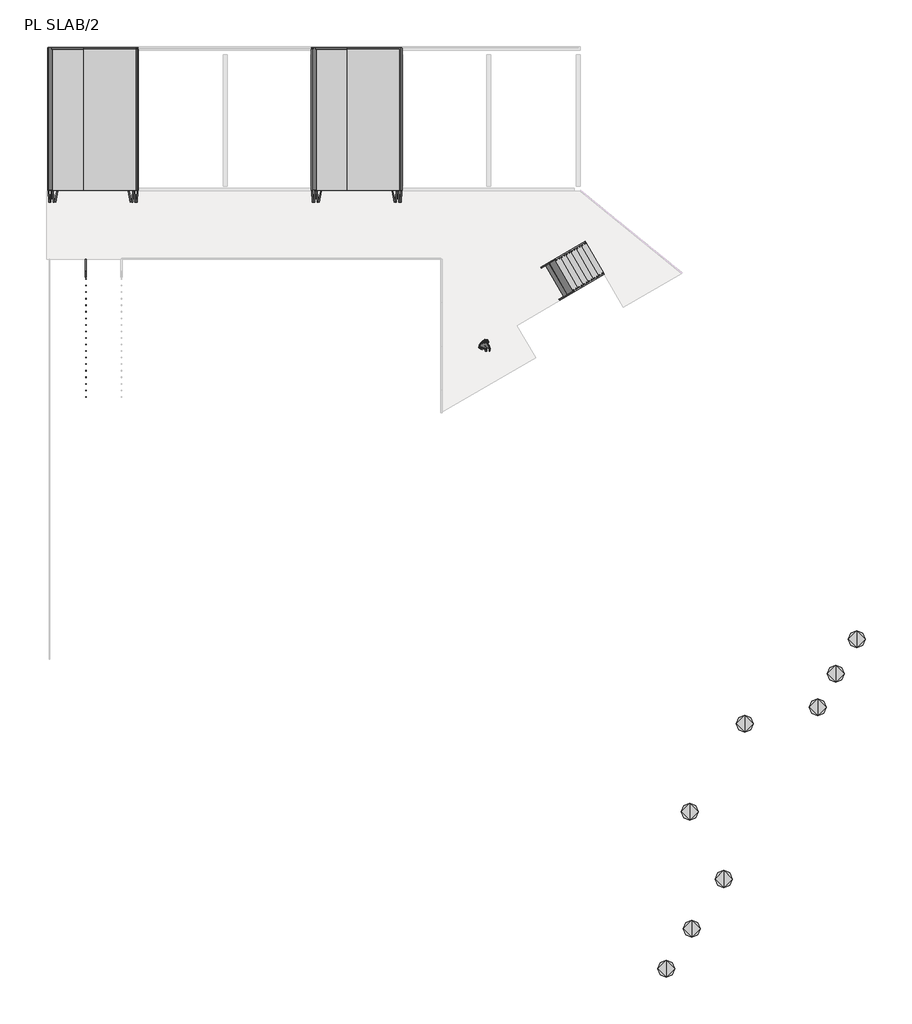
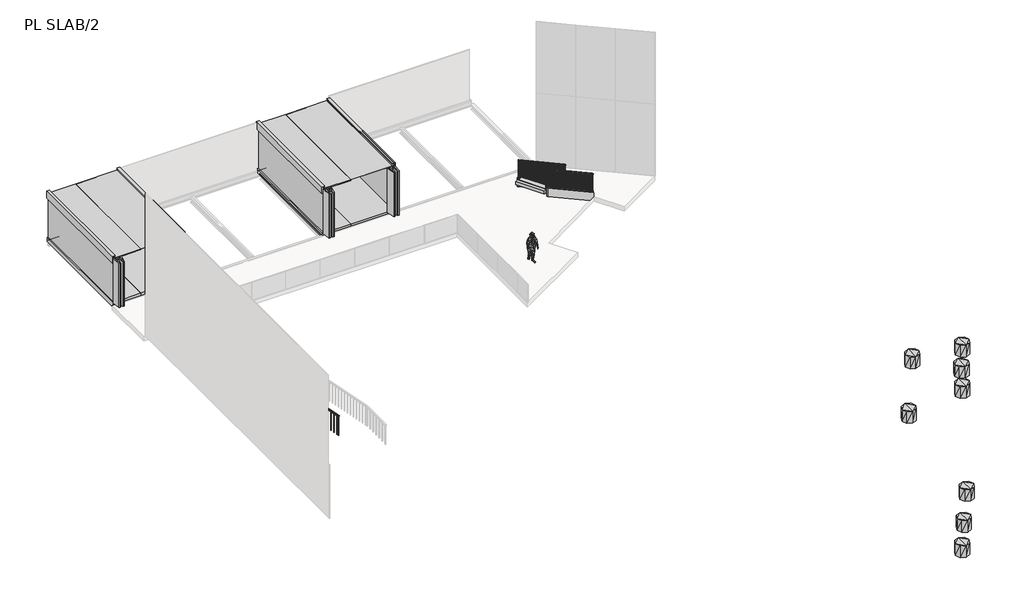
# One storey, part 2 of 2: 9 geographic elements, 3 railings, 2 members, 2 proxies, 1 stair flight.
"""IFC4 building model written with IfcOpenShell, lengths in millimetres."""

from ifc_helpers import new_model, si_unit, frame, origin, place, context, project, spatial, polyline, outline, extrude, transform, mapped, element, save
from components import metal_blocks12_metal_blocks12_015d9ee2, geographic_element_3335acbb, geographic_element_529ebcd5, wood_steps_w_50mm_tread_10mm_nosing_13mm_riser_1b7bef0b

model = new_model("IFC4")

# Units and contexts
model_context = context("Model", 3, world=origin())
ifc_project = project(units=[si_unit("LENGTHUNIT", "METRE", prefix="MILLI")], contexts=[model_context])

# Site, building, storey
site = spatial("IfcSite", under=ifc_project)
building = spatial("IfcBuilding", under=site)
storey = spatial("IfcBuildingStorey", under=building, Name="PL SLAB/2", Elevation=3300.0)

# Proxies
placement = place(None, origin())
metal_blocks12_metal_blocks12_shape = metal_blocks12_metal_blocks12_015d9ee2(model_context)
element("IfcBuildingElementProxy", 1, Name="metal blocks12 : metal blocks12", ObjectType="metal blocks12 : metal blocks12", at=placement, inside=storey, context=model_context, shape_type="MappedRepresentation", body=[
    mapped(metal_blocks12_metal_blocks12_shape, transform((-9631.6874983, 29190.0288254, 3300.0), x_axis=(0.0, 1.0, 0.0), y_axis=(-1.0, 0.0, 0.0), z_axis=(0.0, 0.0, 1.0))),
])
element("IfcBuildingElementProxy", 2, Name="metal blocks12 : metal blocks12", ObjectType="metal blocks12 : metal blocks12", at=placement, inside=storey, context=model_context, shape_type="MappedRepresentation", body=[
    mapped(metal_blocks12_metal_blocks12_shape, transform((1448.4037035, 29190.0288254, 3300.0), x_axis=(0.0, 1.0, 0.0), y_axis=(-1.0, 0.0, 0.0), z_axis=(0.0, 0.0, 1.0))),
])

# Geographic elements
geographic_element_shape = geographic_element_3335acbb(model_context)
element("IfcGeographicElement", 3, ObjectType="Enscape AssetDefinition - Bush 015 English Laurel : Enscape AssetDefinition - Bush 015 English Laurel", at=placement, inside=storey, context=model_context, shape_type="MappedRepresentation", body=[
    mapped(geographic_element_shape, transform((18957.3356294, 7490.0288254, 150.0), x_axis=(1.0, 0.0, 0.0), y_axis=(0.0, 1.0, 0.0), z_axis=(0.0, 0.0, 1.0))),
])
element("IfcGeographicElement", 4, ObjectType="Enscape AssetDefinition - Bush 015 English Laurel : Enscape AssetDefinition - Bush 015 English Laurel", at=placement, inside=storey, context=model_context, shape_type="MappedRepresentation", body=[
    mapped(geographic_element_shape, transform((19720.9924081, 8885.0469404, 150.0), x_axis=(1.0, 0.0, 0.0), y_axis=(0.0, 1.0, 0.0), z_axis=(0.0, 0.0, 1.0))),
])
element("IfcGeographicElement", 5, ObjectType="Enscape AssetDefinition - Bush 015 English Laurel : Enscape AssetDefinition - Bush 015 English Laurel", at=placement, inside=storey, context=model_context, shape_type="MappedRepresentation", body=[
    mapped(geographic_element_shape, transform((20598.3597979, 10341.3675937, 150.0), x_axis=(1.0, 0.0, 0.0), y_axis=(0.0, 1.0, 0.0), z_axis=(0.0, 0.0, 1.0))),
])
element("IfcGeographicElement", 6, ObjectType="Enscape AssetDefinition - Bush 015 English Laurel : Enscape AssetDefinition - Bush 015 English Laurel", at=placement, inside=storey, context=model_context, shape_type="MappedRepresentation", body=[
    mapped(geographic_element_shape, transform((12601.6303112, -3509.9711746, 150.0), x_axis=(1.0, 0.0, 0.0), y_axis=(0.0, 1.0, 0.0), z_axis=(0.0, 0.0, 1.0))),
])
element("IfcGeographicElement", 7, ObjectType="Enscape AssetDefinition - Bush 015 English Laurel : Enscape AssetDefinition - Bush 015 English Laurel", at=placement, inside=storey, context=model_context, shape_type="MappedRepresentation", body=[
    mapped(geographic_element_shape, transform((13664.9991538, -1816.0720909, 150.0), x_axis=(1.0, 0.0, 0.0), y_axis=(0.0, 1.0, 0.0), z_axis=(0.0, 0.0, 1.0))),
])
element("IfcGeographicElement", 8, ObjectType="Enscape AssetDefinition - Bush 015 English Laurel : Enscape AssetDefinition - Bush 015 English Laurel", at=placement, inside=storey, context=model_context, shape_type="MappedRepresentation", body=[
    mapped(geographic_element_shape, transform((15022.8674679, 265.5548037, 150.0), x_axis=(1.0, 0.0, 0.0), y_axis=(0.0, 1.0, 0.0), z_axis=(0.0, 0.0, 1.0))),
])
element("IfcGeographicElement", 9, ObjectType="Enscape AssetDefinition - Bush 015 English Laurel : Enscape AssetDefinition - Bush 015 English Laurel", at=placement, inside=storey, context=model_context, shape_type="MappedRepresentation", body=[
    mapped(geographic_element_shape, transform((13594.2292254, 3090.0288254, 3300.0), x_axis=(1.0, 0.0, 0.0), y_axis=(0.0, 1.0, 0.0), z_axis=(0.0, 0.0, 1.0))),
])
element("IfcGeographicElement", 10, ObjectType="Enscape AssetDefinition - Bush 015 English Laurel : Enscape AssetDefinition - Bush 015 English Laurel", at=placement, inside=storey, context=model_context, shape_type="MappedRepresentation", body=[
    mapped(geographic_element_shape, transform((15899.8595018, 6785.7328214, 3300.0), x_axis=(1.0, 0.0, 0.0), y_axis=(0.0, 1.0, 0.0), z_axis=(0.0, 0.0, 1.0))),
])
geographic_element_2_shape = geographic_element_529ebcd5(model_context)
element("IfcGeographicElement", 11, ObjectType="Enscape AssetDefinition - Adrian 001 Walking : Enscape AssetDefinition - Adrian 001 Walking", at=placement, inside=storey, context=model_context, shape_type="MappedRepresentation", body=[
    mapped(geographic_element_2_shape, transform((4951.4862691, 22643.5885447, 3300.0), x_axis=(1.0, 0.0, 0.0), y_axis=(0.0, 1.0, 0.0), z_axis=(0.0, 0.0, 1.0))),
])

# Members
element("IfcMember", 12, ObjectType="Stringer-50mm_Width", at=placement, inside=storey, context=model_context, shape_type="SweptSolid", body=[
    extrude(outline(polyline([(-129.2778206, -193.9167308), (0.0, 0.0), (5107.8643069, 1e-07), (4841.1976402, -399.9999999), (179.8470831, -399.9999999), (-129.2778206, -193.9167308)])), frame((9998.3283606, 25664.1178276, 3533.0589054), z_axis=(-0.4999999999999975, 0.8660254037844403, 0.0), x_axis=(-0.7205766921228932, -0.41602514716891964, 0.5547001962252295)), (0.0, 0.0, 1.0), 50.0),
])
element("IfcMember", 13, ObjectType="Stringer-50mm_Width", at=placement, inside=storey, context=model_context, shape_type="SweptSolid", body=[
    extrude(outline(polyline([(-129.2778206, -193.9167308), (0.0, 0.0), (5107.8643069, 1e-07), (4841.1976402, -399.9999999), (179.8470831, -400.0), (-129.2778206, -193.9167308)])), frame((9223.3283606, 27006.4572035, 3533.0589054), z_axis=(-0.49999999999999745, 0.8660254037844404, 0.0), x_axis=(-0.7205766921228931, -0.4160251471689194, 0.5547001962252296)), (0.0, 0.0, 1.0), 50.0),
])

# Railings
element("IfcRailing", 14, ObjectType="1100mm", at=placement, inside=storey, context=model_context, shape_type="SweptSolid", body=[
    extrude(outline(polyline([(-33.3333334, -50.0), (0.0, 0.0), (5107.8643068, 0.0), (5074.5309735, -50.0), (-33.3333334, -50.0)])), frame((9248.5283606, 26962.8095231, 4566.6666667), z_axis=(-0.4999999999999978, 0.86602540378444, 0.0), x_axis=(-0.7205766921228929, -0.4160251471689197, 0.5547001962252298)), (0.0, 0.0, 1.0), 50.0),
    extrude(outline(polyline([(1264.9074788, -25.0), (108.3333334, -25.0), (91.6666667, 0.0), (1264.9074788, 0.0), (1264.9074788, -25.0)])), frame((5604.9716647, 24873.6348407, 7398.2408121), z_axis=(-0.49999999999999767, 0.86602540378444, 0.0), x_axis=(0.0, 0.0, -1.0)), (0.0, 0.0, 1.0), 25.0),
    extrude(outline(polyline([(1181.5741454, -25.0), (108.3333333, -25.0), (91.6666666, 0.0), (1181.5741454, 0.0), (1181.5741454, -25.0)])), frame((5713.2248402, 24936.1348407, 7314.9074787), z_axis=(-0.49999999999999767, 0.86602540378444, 0.0), x_axis=(0.0, 0.0, -1.0)), (0.0, 0.0, 1.0), 25.0),
    extrude(outline(polyline([(1264.9074787, -25.0), (108.3333333, -25.0), (91.6666667, 0.0), (1264.9074787, 0.0), (1264.9074787, -25.0)])), frame((5821.4780157, 24998.6348407, 7231.5741454), z_axis=(-0.49999999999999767, 0.86602540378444, 0.0), x_axis=(0.0, 0.0, -1.0)), (0.0, 0.0, 1.0), 25.0),
    extrude(outline(polyline([(1181.5741454, -25.0), (108.3333334, -25.0), (91.6666667, 0.0), (1181.5741454, 0.0), (1181.5741454, -25.0)])), frame((5929.7311912, 25061.1348407, 7148.2408121), z_axis=(-0.49999999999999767, 0.86602540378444, 0.0), x_axis=(0.0, 0.0, -1.0)), (0.0, 0.0, 1.0), 25.0),
    extrude(outline(polyline([(1264.9074787, -25.0), (108.3333333, -25.0), (91.6666666, 0.0), (1264.9074787, 0.0), (1264.9074787, -25.0)])), frame((6037.9843666, 25123.6348407, 7064.9074787), z_axis=(-0.49999999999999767, 0.86602540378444, 0.0), x_axis=(0.0, 0.0, -1.0)), (0.0, 0.0, 1.0), 25.0),
    extrude(outline(polyline([(1181.5741454, -25.0), (108.3333333, -25.0), (91.6666667, 0.0), (1181.5741454, 0.0), (1181.5741454, -25.0)])), frame((6146.2375421, 25186.1348407, 6981.5741454), z_axis=(-0.49999999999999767, 0.86602540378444, 0.0), x_axis=(0.0, 0.0, -1.0)), (0.0, 0.0, 1.0), 25.0),
    extrude(outline(polyline([(1264.9074788, -25.0), (108.3333334, -25.0), (91.6666667, 0.0), (1264.9074788, 0.0), (1264.9074788, -25.0)])), frame((6254.4907176, 25248.6348407, 6898.2408121), z_axis=(-0.49999999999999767, 0.86602540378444, 0.0), x_axis=(0.0, 0.0, -1.0)), (0.0, 0.0, 1.0), 25.0),
    extrude(outline(polyline([(1181.5741454, -25.0), (108.3333333, -25.0), (91.6666666, 0.0), (1181.5741454, 0.0), (1181.5741454, -25.0)])), frame((6362.7438931, 25311.1348407, 6814.9074787), z_axis=(-0.49999999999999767, 0.86602540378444, 0.0), x_axis=(0.0, 0.0, -1.0)), (0.0, 0.0, 1.0), 25.0),
    extrude(outline(polyline([(1264.9074787, -25.0), (108.3333333, -25.0), (91.6666667, 0.0), (1264.9074787, 0.0), (1264.9074787, -25.0)])), frame((6470.9970685, 25373.6348407, 6731.5741454), z_axis=(-0.49999999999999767, 0.86602540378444, 0.0), x_axis=(0.0, 0.0, -1.0)), (0.0, 0.0, 1.0), 25.0),
    extrude(outline(polyline([(1181.5741454, -25.0), (108.3333334, -25.0), (91.6666667, 0.0), (1181.5741454, 0.0), (1181.5741454, -25.0)])), frame((6579.250244, 25436.1348407, 6648.2408121), z_axis=(-0.49999999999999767, 0.86602540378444, 0.0), x_axis=(0.0, 0.0, -1.0)), (0.0, 0.0, 1.0), 25.0),
    extrude(outline(polyline([(1264.9074787, -25.0), (108.3333333, -25.0), (91.6666666, 0.0), (1264.9074787, 0.0), (1264.9074787, -25.0)])), frame((6687.5034195, 25498.6348407, 6564.9074787), z_axis=(-0.49999999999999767, 0.86602540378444, 0.0), x_axis=(0.0, 0.0, -1.0)), (0.0, 0.0, 1.0), 25.0),
    extrude(outline(polyline([(1181.5741454, -24.9999999), (108.3333333, -24.9999999), (91.6666667, 0.0), (1181.5741454, 0.0), (1181.5741454, -24.9999999)])), frame((6795.756595, 25561.1348407, 6481.5741454), z_axis=(-0.49999999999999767, 0.86602540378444, 0.0), x_axis=(0.0, 0.0, -1.0)), (0.0, 0.0, 1.0), 25.0),
    extrude(outline(polyline([(1264.9074788, -25.0), (108.3333334, -25.0), (91.6666667, 0.0), (1264.9074788, 0.0), (1264.9074788, -25.0)])), frame((6904.0097704, 25623.6348407, 6398.2408121), z_axis=(-0.49999999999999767, 0.86602540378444, 0.0), x_axis=(0.0, 0.0, -1.0)), (0.0, 0.0, 1.0), 25.0),
    extrude(outline(polyline([(1181.5741454, -25.0), (108.3333333, -25.0), (91.6666666, 0.0), (1181.5741454, 0.0), (1181.5741454, -25.0)])), frame((7012.2629459, 25686.1348407, 6314.9074787), z_axis=(-0.49999999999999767, 0.86602540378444, 0.0), x_axis=(0.0, 0.0, -1.0)), (0.0, 0.0, 1.0), 25.0),
    extrude(outline(polyline([(1264.9074787, -25.0), (108.3333333, -25.0), (91.6666667, 0.0), (1264.9074787, 0.0), (1264.9074787, -25.0)])), frame((7120.5161214, 25748.6348407, 6231.5741454), z_axis=(-0.49999999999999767, 0.86602540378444, 0.0), x_axis=(0.0, 0.0, -1.0)), (0.0, 0.0, 1.0), 25.0),
    extrude(outline(polyline([(1181.5741454, -25.0), (108.3333334, -25.0), (91.6666667, 0.0), (1181.5741454, 0.0), (1181.5741454, -25.0)])), frame((7228.7692968, 25811.1348407, 6148.2408121), z_axis=(-0.49999999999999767, 0.86602540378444, 0.0), x_axis=(0.0, 0.0, -1.0)), (0.0, 0.0, 1.0), 25.0),
    extrude(outline(polyline([(1264.9074787, -25.0), (108.3333333, -25.0), (91.6666666, 0.0), (1264.9074787, 0.0), (1264.9074787, -25.0)])), frame((7337.0224723, 25873.6348407, 6064.9074787), z_axis=(-0.49999999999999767, 0.86602540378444, 0.0), x_axis=(0.0, 0.0, -1.0)), (0.0, 0.0, 1.0), 25.0),
    extrude(outline(polyline([(1181.5741454, -25.0), (108.3333333, -25.0), (91.6666667, 0.0), (1181.5741454, 0.0), (1181.5741454, -25.0)])), frame((7445.2756478, 25936.1348407, 5981.5741454), z_axis=(-0.49999999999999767, 0.86602540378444, 0.0), x_axis=(0.0, 0.0, -1.0)), (0.0, 0.0, 1.0), 25.0),
    extrude(outline(polyline([(1264.9074788, -25.0), (108.3333334, -25.0), (91.6666667, 0.0), (1264.9074788, 0.0), (1264.9074788, -25.0)])), frame((7553.5288233, 25998.6348407, 5898.2408121), z_axis=(-0.49999999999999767, 0.86602540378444, 0.0), x_axis=(0.0, 0.0, -1.0)), (0.0, 0.0, 1.0), 25.0),
    extrude(outline(polyline([(1181.5741454, -25.0), (108.3333333, -25.0), (91.6666666, 0.0), (1181.5741454, 0.0), (1181.5741454, -25.0)])), frame((7661.7819987, 26061.1348407, 5814.9074787), z_axis=(-0.49999999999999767, 0.86602540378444, 0.0), x_axis=(0.0, 0.0, -1.0)), (0.0, 0.0, 1.0), 25.0),
    extrude(outline(polyline([(1264.9074787, -25.0), (108.3333333, -25.0), (91.6666667, 0.0), (1264.9074787, 0.0), (1264.9074787, -25.0)])), frame((7770.0351742, 26123.6348407, 5731.5741454), z_axis=(-0.49999999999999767, 0.86602540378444, 0.0), x_axis=(0.0, 0.0, -1.0)), (0.0, 0.0, 1.0), 25.0),
    extrude(outline(polyline([(1181.5741454, -25.0), (108.3333334, -25.0), (91.6666667, 0.0), (1181.5741454, 0.0), (1181.5741454, -25.0)])), frame((7878.2883497, 26186.1348407, 5648.2408121), z_axis=(-0.49999999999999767, 0.86602540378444, 0.0), x_axis=(0.0, 0.0, -1.0)), (0.0, 0.0, 1.0), 25.0),
    extrude(outline(polyline([(1264.9074787, -24.9999999), (108.3333333, -24.9999999), (91.6666666, 0.0), (1264.9074787, 0.0), (1264.9074787, -24.9999999)])), frame((7986.5415252, 26248.6348407, 5564.9074787), z_axis=(-0.49999999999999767, 0.86602540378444, 0.0), x_axis=(0.0, 0.0, -1.0)), (0.0, 0.0, 1.0), 25.0),
    extrude(outline(polyline([(1181.5741454, -25.0), (108.3333333, -25.0), (91.6666667, 0.0), (1181.5741454, 0.0), (1181.5741454, -25.0)])), frame((8094.7947006, 26311.1348407, 5481.5741454), z_axis=(-0.49999999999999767, 0.86602540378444, 0.0), x_axis=(0.0, 0.0, -1.0)), (0.0, 0.0, 1.0), 25.0),
    extrude(outline(polyline([(1264.9074788, -25.0), (108.3333334, -25.0), (91.6666667, 0.0), (1264.9074788, 0.0), (1264.9074788, -25.0)])), frame((8203.0478761, 26373.6348407, 5398.2408121), z_axis=(-0.49999999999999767, 0.86602540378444, 0.0), x_axis=(0.0, 0.0, -1.0)), (0.0, 0.0, 1.0), 25.0),
    extrude(outline(polyline([(1181.5741454, -25.0), (108.3333333, -25.0), (91.6666666, 0.0), (1181.5741454, 0.0), (1181.5741454, -25.0)])), frame((8311.3010516, 26436.1348407, 5314.9074787), z_axis=(-0.49999999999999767, 0.86602540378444, 0.0), x_axis=(0.0, 0.0, -1.0)), (0.0, 0.0, 1.0), 25.0),
    extrude(outline(polyline([(1264.9074787, -25.0), (108.3333333, -25.0), (91.6666667, 0.0), (1264.9074787, 0.0), (1264.9074787, -25.0)])), frame((8419.554227, 26498.6348407, 5231.5741454), z_axis=(-0.49999999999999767, 0.86602540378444, 0.0), x_axis=(0.0, 0.0, -1.0)), (0.0, 0.0, 1.0), 25.0),
    extrude(outline(polyline([(1181.5741454, -25.0), (108.3333334, -25.0), (91.6666667, 0.0), (1181.5741454, 0.0), (1181.5741454, -25.0)])), frame((8527.8074025, 26561.1348407, 5148.2408121), z_axis=(-0.49999999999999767, 0.86602540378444, 0.0), x_axis=(0.0, 0.0, -1.0)), (0.0, 0.0, 1.0), 25.0),
    extrude(outline(polyline([(1264.9074787, -25.0), (108.3333333, -25.0), (91.6666666, 0.0), (1264.9074787, 0.0), (1264.9074787, -25.0)])), frame((8636.060578, 26623.6348407, 5064.9074787), z_axis=(-0.49999999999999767, 0.86602540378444, 0.0), x_axis=(0.0, 0.0, -1.0)), (0.0, 0.0, 1.0), 25.0),
    extrude(outline(polyline([(1181.5741454, -25.0), (108.3333333, -25.0), (91.6666667, 0.0), (1181.5741454, 0.0), (1181.5741454, -25.0)])), frame((8744.3137535, 26686.1348407, 4981.5741454), z_axis=(-0.49999999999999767, 0.86602540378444, 0.0), x_axis=(0.0, 0.0, -1.0)), (0.0, 0.0, 1.0), 25.0),
    extrude(outline(polyline([(1264.9074788, -25.0), (108.3333334, -25.0), (91.6666667, 0.0), (1264.9074788, 0.0), (1264.9074788, -25.0)])), frame((8852.5669289, 26748.6348407, 4898.2408121), z_axis=(-0.49999999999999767, 0.86602540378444, 0.0), x_axis=(0.0, 0.0, -1.0)), (0.0, 0.0, 1.0), 25.0),
    extrude(outline(polyline([(1181.5741454, -25.0), (108.3333333, -25.0), (91.6666666, 0.0), (1181.5741454, 0.0), (1181.5741454, -25.0)])), frame((8960.8201044, 26811.1348407, 4814.9074787), z_axis=(-0.49999999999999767, 0.86602540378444, 0.0), x_axis=(0.0, 0.0, -1.0)), (0.0, 0.0, 1.0), 25.0),
    extrude(outline(polyline([(1264.9074787, -25.0), (108.3333333, -25.0), (91.6666667, 0.0), (1264.9074787, 0.0), (1264.9074787, -25.0)])), frame((9069.0732799, 26873.6348407, 4731.5741454), z_axis=(-0.49999999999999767, 0.86602540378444, 0.0), x_axis=(0.0, 0.0, -1.0)), (0.0, 0.0, 1.0), 25.0),
    extrude(outline(polyline([(1181.5741454, -25.0), (108.3333334, -25.0), (91.6666667, 0.0), (1181.5741454, 0.0), (1181.5741454, -25.0)])), frame((9177.3264554, 26936.1348407, 4648.2408121), z_axis=(-0.49999999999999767, 0.86602540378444, 0.0), x_axis=(0.0, 0.0, -1.0)), (0.0, 0.0, 1.0), 25.0),
    extrude(outline(polyline([(1298.2408121, -25.0), (108.3333333, -25.0), (91.6666667, 0.0), (1298.2408121, 0.0), (1298.2408121, -25.0)])), frame((5561.6703946, 24848.6348407, 7431.5741454), z_axis=(-0.49999999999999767, 0.86602540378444, 0.0), x_axis=(0.0, 0.0, -1.0)), (0.0, 0.0, 1.0), 25.0),
    extrude(outline(polyline([(1148.240812, -25.0), (108.3333333, -25.0), (91.6666666, 0.0), (1148.240812, 0.0), (1148.240812, -25.0)])), frame((9220.6277255, 26961.1348407, 4614.9074787), z_axis=(-0.49999999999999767, 0.86602540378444, 0.0), x_axis=(0.0, 0.0, -1.0)), (0.0, 0.0, 1.0), 25.0),
])
element("IfcRailing", 15, ObjectType="1100mm", at=placement, inside=storey, context=model_context, shape_type="SweptSolid", body=[
    extrude(outline(polyline([(-33.3333334, -50.0), (0.0, 0.0), (5107.8643068, 0.0), (5074.5309735, -50.0), (-33.3333334, -50.0)])), frame((9973.1283606, 25707.765508, 4566.6666667), z_axis=(-0.49999999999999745, 0.8660254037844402, 0.0), x_axis=(-0.7205766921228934, -0.41602514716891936, 0.5547001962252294)), (0.0, 0.0, 1.0), 50.0),
    extrude(outline(polyline([(108.3333334, 0.0), (91.6666667, 25.0), (1264.9074788, 25.0), (1264.9074788, 0.0), (108.3333334, 0.0)])), frame((6351.2222998, 23631.0908255, 7398.2408121), z_axis=(-0.49999999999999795, 0.8660254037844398, 0.0), x_axis=(0.0, 0.0, -1.0)), (0.0, 0.0, 1.0), 25.0),
    extrude(outline(polyline([(108.3333333, 0.0), (91.6666666, 25.0), (1181.5741454, 25.0), (1181.5741454, 0.0), (108.3333333, 0.0)])), frame((6459.4754753, 23693.5908255, 7314.9074787), z_axis=(-0.49999999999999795, 0.8660254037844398, 0.0), x_axis=(0.0, 0.0, -1.0)), (0.0, 0.0, 1.0), 25.0),
    extrude(outline(polyline([(108.3333333, 0.0), (91.6666667, 25.0), (1264.9074787, 25.0), (1264.9074787, 0.0), (108.3333333, 0.0)])), frame((6567.7286508, 23756.0908255, 7231.5741454), z_axis=(-0.49999999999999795, 0.8660254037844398, 0.0), x_axis=(0.0, 0.0, -1.0)), (0.0, 0.0, 1.0), 25.0),
    extrude(outline(polyline([(108.3333334, 0.0), (91.6666667, 25.0), (1181.5741454, 25.0), (1181.5741454, 0.0), (108.3333334, 0.0)])), frame((6675.9818263, 23818.5908255, 7148.2408121), z_axis=(-0.49999999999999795, 0.8660254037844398, 0.0), x_axis=(0.0, 0.0, -1.0)), (0.0, 0.0, 1.0), 25.0),
    extrude(outline(polyline([(108.3333333, 0.0), (91.6666666, 25.0), (1264.9074787, 25.0), (1264.9074787, 0.0), (108.3333333, 0.0)])), frame((6784.2350017, 23881.0908255, 7064.9074787), z_axis=(-0.49999999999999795, 0.8660254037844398, 0.0), x_axis=(0.0, 0.0, -1.0)), (0.0, 0.0, 1.0), 25.0),
    extrude(outline(polyline([(108.3333333, 0.0), (91.6666667, 25.0), (1181.5741454, 25.0), (1181.5741454, 0.0), (108.3333333, 0.0)])), frame((6892.4881772, 23943.5908255, 6981.5741454), z_axis=(-0.49999999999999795, 0.8660254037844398, 0.0), x_axis=(0.0, 0.0, -1.0)), (0.0, 0.0, 1.0), 25.0),
    extrude(outline(polyline([(108.3333334, 0.0), (91.6666667, 25.0), (1264.9074788, 25.0), (1264.9074788, 0.0), (108.3333334, 0.0)])), frame((7000.7413527, 24006.0908255, 6898.2408121), z_axis=(-0.49999999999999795, 0.8660254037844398, 0.0), x_axis=(0.0, 0.0, -1.0)), (0.0, 0.0, 1.0), 25.0),
    extrude(outline(polyline([(108.3333333, 0.0), (91.6666666, 25.0), (1181.5741454, 25.0), (1181.5741454, 0.0), (108.3333333, 0.0)])), frame((7108.9945282, 24068.5908255, 6814.9074787), z_axis=(-0.49999999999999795, 0.8660254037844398, 0.0), x_axis=(0.0, 0.0, -1.0)), (0.0, 0.0, 1.0), 25.0),
    extrude(outline(polyline([(108.3333333, 0.0), (91.6666667, 25.0), (1264.9074787, 25.0), (1264.9074787, 0.0), (108.3333333, 0.0)])), frame((7217.2477036, 24131.0908255, 6731.5741454), z_axis=(-0.49999999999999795, 0.8660254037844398, 0.0), x_axis=(0.0, 0.0, -1.0)), (0.0, 0.0, 1.0), 25.0),
    extrude(outline(polyline([(108.3333334, 0.0), (91.6666667, 25.0), (1181.5741454, 25.0), (1181.5741454, 0.0), (108.3333334, 0.0)])), frame((7325.5008791, 24193.5908255, 6648.2408121), z_axis=(-0.49999999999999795, 0.8660254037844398, 0.0), x_axis=(0.0, 0.0, -1.0)), (0.0, 0.0, 1.0), 25.0),
    extrude(outline(polyline([(108.3333333, 0.0), (91.6666666, 25.0), (1264.9074787, 25.0), (1264.9074787, 0.0), (108.3333333, 0.0)])), frame((7433.7540546, 24256.0908255, 6564.9074787), z_axis=(-0.49999999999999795, 0.8660254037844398, 0.0), x_axis=(0.0, 0.0, -1.0)), (0.0, 0.0, 1.0), 25.0),
    extrude(outline(polyline([(108.3333333, 0.0), (91.6666667, 24.9999999), (1181.5741454, 24.9999999), (1181.5741454, 0.0), (108.3333333, 0.0)])), frame((7542.00723, 24318.5908255, 6481.5741454), z_axis=(-0.49999999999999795, 0.8660254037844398, 0.0), x_axis=(0.0, 0.0, -1.0)), (0.0, 0.0, 1.0), 25.0),
    extrude(outline(polyline([(108.3333334, 0.0), (91.6666667, 25.0), (1264.9074788, 25.0), (1264.9074788, 0.0), (108.3333334, 0.0)])), frame((7650.2604055, 24381.0908255, 6398.2408121), z_axis=(-0.49999999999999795, 0.8660254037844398, 0.0), x_axis=(0.0, 0.0, -1.0)), (0.0, 0.0, 1.0), 25.0),
    extrude(outline(polyline([(108.3333333, 0.0), (91.6666666, 25.0), (1181.5741454, 25.0), (1181.5741454, 0.0), (108.3333333, 0.0)])), frame((7758.513581, 24443.5908255, 6314.9074787), z_axis=(-0.49999999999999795, 0.8660254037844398, 0.0), x_axis=(0.0, 0.0, -1.0)), (0.0, 0.0, 1.0), 25.0),
    extrude(outline(polyline([(108.3333333, 0.0), (91.6666667, 25.0), (1264.9074787, 25.0), (1264.9074787, 0.0), (108.3333333, 0.0)])), frame((7866.7667565, 24506.0908255, 6231.5741454), z_axis=(-0.49999999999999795, 0.8660254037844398, 0.0), x_axis=(0.0, 0.0, -1.0)), (0.0, 0.0, 1.0), 25.0),
    extrude(outline(polyline([(108.3333334, 0.0), (91.6666667, 25.0), (1181.5741454, 25.0), (1181.5741454, 0.0), (108.3333334, 0.0)])), frame((7975.0199319, 24568.5908255, 6148.2408121), z_axis=(-0.49999999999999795, 0.8660254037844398, 0.0), x_axis=(0.0, 0.0, -1.0)), (0.0, 0.0, 1.0), 25.0),
    extrude(outline(polyline([(108.3333333, 0.0), (91.6666666, 25.0), (1264.9074787, 25.0), (1264.9074787, 0.0), (108.3333333, 0.0)])), frame((8083.2731074, 24631.0908255, 6064.9074787), z_axis=(-0.49999999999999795, 0.8660254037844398, 0.0), x_axis=(0.0, 0.0, -1.0)), (0.0, 0.0, 1.0), 25.0),
    extrude(outline(polyline([(108.3333333, 0.0), (91.6666667, 25.0), (1181.5741454, 25.0), (1181.5741454, 0.0), (108.3333333, 0.0)])), frame((8191.5262829, 24693.5908255, 5981.5741454), z_axis=(-0.49999999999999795, 0.8660254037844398, 0.0), x_axis=(0.0, 0.0, -1.0)), (0.0, 0.0, 1.0), 25.0),
    extrude(outline(polyline([(108.3333334, 0.0), (91.6666667, 25.0), (1264.9074788, 25.0), (1264.9074788, 0.0), (108.3333334, 0.0)])), frame((8299.7794584, 24756.0908255, 5898.2408121), z_axis=(-0.49999999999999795, 0.8660254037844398, 0.0), x_axis=(0.0, 0.0, -1.0)), (0.0, 0.0, 1.0), 25.0),
    extrude(outline(polyline([(108.3333333, 0.0), (91.6666666, 25.0), (1181.5741454, 25.0), (1181.5741454, 0.0), (108.3333333, 0.0)])), frame((8408.0326338, 24818.5908255, 5814.9074787), z_axis=(-0.49999999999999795, 0.8660254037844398, 0.0), x_axis=(0.0, 0.0, -1.0)), (0.0, 0.0, 1.0), 25.0),
    extrude(outline(polyline([(108.3333333, 0.0), (91.6666667, 25.0), (1264.9074787, 25.0), (1264.9074787, 0.0), (108.3333333, 0.0)])), frame((8516.2858093, 24881.0908255, 5731.5741454), z_axis=(-0.49999999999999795, 0.8660254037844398, 0.0), x_axis=(0.0, 0.0, -1.0)), (0.0, 0.0, 1.0), 25.0),
    extrude(outline(polyline([(108.3333334, 0.0), (91.6666667, 25.0), (1181.5741454, 25.0), (1181.5741454, 0.0), (108.3333334, 0.0)])), frame((8624.5389848, 24943.5908255, 5648.2408121), z_axis=(-0.49999999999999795, 0.8660254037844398, 0.0), x_axis=(0.0, 0.0, -1.0)), (0.0, 0.0, 1.0), 25.0),
    extrude(outline(polyline([(108.3333333, 0.0), (91.6666666, 24.9999999), (1264.9074787, 24.9999999), (1264.9074787, 0.0), (108.3333333, 0.0)])), frame((8732.7921602, 25006.0908255, 5564.9074787), z_axis=(-0.49999999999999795, 0.8660254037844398, 0.0), x_axis=(0.0, 0.0, -1.0)), (0.0, 0.0, 1.0), 25.0),
    extrude(outline(polyline([(108.3333333, 0.0), (91.6666667, 25.0), (1181.5741454, 25.0), (1181.5741454, 0.0), (108.3333333, 0.0)])), frame((8841.0453357, 25068.5908255, 5481.5741454), z_axis=(-0.49999999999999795, 0.8660254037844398, 0.0), x_axis=(0.0, 0.0, -1.0)), (0.0, 0.0, 1.0), 25.0),
    extrude(outline(polyline([(108.3333334, 0.0), (91.6666667, 25.0), (1264.9074788, 25.0), (1264.9074788, 0.0), (108.3333334, 0.0)])), frame((8949.2985112, 25131.0908255, 5398.2408121), z_axis=(-0.49999999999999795, 0.8660254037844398, 0.0), x_axis=(0.0, 0.0, -1.0)), (0.0, 0.0, 1.0), 25.0),
    extrude(outline(polyline([(108.3333333, 0.0), (91.6666666, 25.0), (1181.5741454, 25.0), (1181.5741454, 0.0), (108.3333333, 0.0)])), frame((9057.5516867, 25193.5908255, 5314.9074787), z_axis=(-0.49999999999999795, 0.8660254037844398, 0.0), x_axis=(0.0, 0.0, -1.0)), (0.0, 0.0, 1.0), 25.0),
    extrude(outline(polyline([(108.3333333, 0.0), (91.6666667, 25.0), (1264.9074787, 25.0), (1264.9074787, 0.0), (108.3333333, 0.0)])), frame((9165.8048621, 25256.0908255, 5231.5741454), z_axis=(-0.49999999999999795, 0.8660254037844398, 0.0), x_axis=(0.0, 0.0, -1.0)), (0.0, 0.0, 1.0), 25.0),
    extrude(outline(polyline([(108.3333334, 0.0), (91.6666667, 25.0), (1181.5741454, 25.0), (1181.5741454, 0.0), (108.3333334, 0.0)])), frame((9274.0580376, 25318.5908255, 5148.2408121), z_axis=(-0.49999999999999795, 0.8660254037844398, 0.0), x_axis=(0.0, 0.0, -1.0)), (0.0, 0.0, 1.0), 25.0),
    extrude(outline(polyline([(108.3333333, 0.0), (91.6666666, 25.0), (1264.9074787, 25.0), (1264.9074787, 0.0), (108.3333333, 0.0)])), frame((9382.3112131, 25381.0908255, 5064.9074787), z_axis=(-0.49999999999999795, 0.8660254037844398, 0.0), x_axis=(0.0, 0.0, -1.0)), (0.0, 0.0, 1.0), 25.0),
    extrude(outline(polyline([(108.3333333, 0.0), (91.6666667, 25.0), (1181.5741454, 25.0), (1181.5741454, 0.0), (108.3333333, 0.0)])), frame((9490.5643886, 25443.5908255, 4981.5741454), z_axis=(-0.49999999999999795, 0.8660254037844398, 0.0), x_axis=(0.0, 0.0, -1.0)), (0.0, 0.0, 1.0), 25.0),
    extrude(outline(polyline([(108.3333334, 0.0), (91.6666667, 25.0), (1264.9074788, 25.0), (1264.9074788, 0.0), (108.3333334, 0.0)])), frame((9598.817564, 25506.0908255, 4898.2408121), z_axis=(-0.49999999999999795, 0.8660254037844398, 0.0), x_axis=(0.0, 0.0, -1.0)), (0.0, 0.0, 1.0), 25.0),
    extrude(outline(polyline([(108.3333333, 0.0), (91.6666666, 25.0), (1181.5741454, 25.0), (1181.5741454, 0.0), (108.3333333, 0.0)])), frame((9707.0707395, 25568.5908255, 4814.9074787), z_axis=(-0.49999999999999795, 0.8660254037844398, 0.0), x_axis=(0.0, 0.0, -1.0)), (0.0, 0.0, 1.0), 25.0),
    extrude(outline(polyline([(108.3333333, 0.0), (91.6666667, 25.0), (1264.9074787, 25.0), (1264.9074787, 0.0), (108.3333333, 0.0)])), frame((9815.323915, 25631.0908255, 4731.5741454), z_axis=(-0.49999999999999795, 0.8660254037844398, 0.0), x_axis=(0.0, 0.0, -1.0)), (0.0, 0.0, 1.0), 25.0),
    extrude(outline(polyline([(108.3333334, 0.0), (91.6666667, 25.0), (1181.5741454, 25.0), (1181.5741454, 0.0), (108.3333334, 0.0)])), frame((9923.5770905, 25693.5908255, 4648.2408121), z_axis=(-0.49999999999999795, 0.8660254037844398, 0.0), x_axis=(0.0, 0.0, -1.0)), (0.0, 0.0, 1.0), 25.0),
    extrude(outline(polyline([(108.3333333, 0.0), (91.6666667, 25.0), (1298.2408121, 25.0), (1298.2408121, 0.0), (108.3333333, 0.0)])), frame((6307.9210297, 23606.0908255, 7431.5741454), z_axis=(-0.49999999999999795, 0.8660254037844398, 0.0), x_axis=(0.0, 0.0, -1.0)), (0.0, 0.0, 1.0), 25.0),
    extrude(outline(polyline([(108.3333333, 0.0), (91.6666666, 25.0), (1148.240812, 25.0), (1148.240812, 0.0), (108.3333333, 0.0)])), frame((9966.8783606, 25718.5908255, 4614.9074787), z_axis=(-0.49999999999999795, 0.8660254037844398, 0.0), x_axis=(0.0, 0.0, -1.0)), (0.0, 0.0, 1.0), 25.0),
])
element("IfcRailing", 16, ObjectType="1100mm", at=placement, inside=storey, context=model_context, shape_type="SweptSolid", body=[
    extrude(outline(polyline([(26292.1681881, 4400.0), (26292.1681881, 4349.0100845), (11290.0288254, 7349.0100845), (11290.0288254, 7400.0), (26292.1681881, 4400.0)])), frame((-11806.9484639, 0.0, 0.0), z_axis=(1.0, 0.0, 0.0), x_axis=(0.0, 1.0, 0.0)), (0.0, 0.0, 1.0), 50.0),
    extrude(outline(polyline([(11454.6681881, 6269.5764666), (11429.6681881, 6269.5764666), (11429.6681881, 7321.0861946), (11454.6681881, 7316.0869076), (11454.6681881, 6269.5764666)])), frame((-11794.4484639, 0.0, 0.0), z_axis=(1.0, 0.0, 0.0), x_axis=(0.0, 1.0, 0.0)), (0.0, 0.0, 1.0), 25.0),
    extrude(outline(polyline([(11729.6681881, 6214.5843098), (11704.6681881, 6214.5843098), (11704.6681881, 7266.0940378), (11729.6681881, 7261.0947508), (11729.6681881, 6214.5843098)])), frame((-11794.4484639, 0.0, 0.0), z_axis=(1.0, 0.0, 0.0), x_axis=(0.0, 1.0, 0.0)), (0.0, 0.0, 1.0), 25.0),
    extrude(outline(polyline([(12004.6681881, 6159.592153), (11979.6681881, 6159.592153), (11979.6681881, 7211.101881), (12004.6681881, 7206.102594), (12004.6681881, 6159.592153)])), frame((-11794.4484639, 0.0, 0.0), z_axis=(1.0, 0.0, 0.0), x_axis=(0.0, 1.0, 0.0)), (0.0, 0.0, 1.0), 25.0),
    extrude(outline(polyline([(12279.6681881, 6104.5999962), (12254.6681881, 6104.5999962), (12254.6681881, 7156.1097242), (12279.6681881, 7151.1104373), (12279.6681881, 6104.5999962)])), frame((-11794.4484639, 0.0, 0.0), z_axis=(1.0, 0.0, 0.0), x_axis=(0.0, 1.0, 0.0)), (0.0, 0.0, 1.0), 25.0),
    extrude(outline(polyline([(12554.6681881, 6049.6078394), (12529.6681881, 6049.6078394), (12529.6681881, 7101.1175675), (12554.6681881, 7096.1182805), (12554.6681881, 6049.6078394)])), frame((-11794.4484639, 0.0, 0.0), z_axis=(1.0, 0.0, 0.0), x_axis=(0.0, 1.0, 0.0)), (0.0, 0.0, 1.0), 25.0),
    extrude(outline(polyline([(12829.6681881, 5994.6156827), (12804.6681881, 5994.6156827), (12804.6681881, 7046.1254107), (12829.6681881, 7041.1261237), (12829.6681881, 5994.6156827)])), frame((-11794.4484639, 0.0, 0.0), z_axis=(1.0, 0.0, 0.0), x_axis=(0.0, 1.0, 0.0)), (0.0, 0.0, 1.0), 25.0),
    extrude(outline(polyline([(13104.6681881, 5939.6235259), (13079.6681881, 5939.6235259), (13079.6681881, 6991.1332539), (13104.6681881, 6986.1339669), (13104.6681881, 5939.6235259)])), frame((-11794.4484639, 0.0, 0.0), z_axis=(1.0, 0.0, 0.0), x_axis=(0.0, 1.0, 0.0)), (0.0, 0.0, 1.0), 25.0),
    extrude(outline(polyline([(13379.6681881, 5884.6313691), (13354.6681881, 5884.6313691), (13354.6681881, 6936.1410971), (13379.6681881, 6931.1418101), (13379.6681881, 5884.6313691)])), frame((-11794.4484639, 0.0, 0.0), z_axis=(1.0, 0.0, 0.0), x_axis=(0.0, 1.0, 0.0)), (0.0, 0.0, 1.0), 25.0),
    extrude(outline(polyline([(13654.6681881, 5829.6392123), (13629.6681881, 5829.6392123), (13629.6681881, 6881.1489403), (13654.6681881, 6876.1496533), (13654.6681881, 5829.6392123)])), frame((-11794.4484639, 0.0, 0.0), z_axis=(1.0, 0.0, 0.0), x_axis=(0.0, 1.0, 0.0)), (0.0, 0.0, 1.0), 25.0),
    extrude(outline(polyline([(13929.6681881, 5774.6470555), (13904.6681881, 5774.6470555), (13904.6681881, 6826.1567835), (13929.6681881, 6821.1574965), (13929.6681881, 5774.6470555)])), frame((-11794.4484639, 0.0, 0.0), z_axis=(1.0, 0.0, 0.0), x_axis=(0.0, 1.0, 0.0)), (0.0, 0.0, 1.0), 25.0),
    extrude(outline(polyline([(14204.6681881, 5719.6548987), (14179.6681881, 5719.6548987), (14179.6681881, 6771.1646267), (14204.6681881, 6766.1653397), (14204.6681881, 5719.6548987)])), frame((-11794.4484639, 0.0, 0.0), z_axis=(1.0, 0.0, 0.0), x_axis=(0.0, 1.0, 0.0)), (0.0, 0.0, 1.0), 25.0),
    extrude(outline(polyline([(14479.6681881, 5664.6627419), (14454.6681881, 5664.6627419), (14454.6681881, 6716.1724699), (14479.6681881, 6711.1731829), (14479.6681881, 5664.6627419)])), frame((-11794.4484639, 0.0, 0.0), z_axis=(1.0, 0.0, 0.0), x_axis=(0.0, 1.0, 0.0)), (0.0, 0.0, 1.0), 25.0),
    extrude(outline(polyline([(14754.6681881, 5609.6705851), (14729.6681881, 5609.6705851), (14729.6681881, 6661.1803131), (14754.6681881, 6656.1810262), (14754.6681881, 5609.6705851)])), frame((-11794.4484639, 0.0, 0.0), z_axis=(1.0, 0.0, 0.0), x_axis=(0.0, 1.0, 0.0)), (0.0, 0.0, 1.0), 25.0),
    extrude(outline(polyline([(15029.6681881, 5554.6784283), (15004.6681881, 5554.6784283), (15004.6681881, 6606.1881564), (15029.6681881, 6601.1888694), (15029.6681881, 5554.6784283)])), frame((-11794.4484639, 0.0, 0.0), z_axis=(1.0, 0.0, 0.0), x_axis=(0.0, 1.0, 0.0)), (0.0, 0.0, 1.0), 25.0),
    extrude(outline(polyline([(15304.6681881, 5499.6862716), (15279.6681881, 5499.6862716), (15279.6681881, 6551.1959996), (15304.6681881, 6546.1967126), (15304.6681881, 5499.6862716)])), frame((-11794.4484639, 0.0, 0.0), z_axis=(1.0, 0.0, 0.0), x_axis=(0.0, 1.0, 0.0)), (0.0, 0.0, 1.0), 25.0),
    extrude(outline(polyline([(15579.6681881, 5444.6941148), (15554.6681881, 5444.6941148), (15554.6681881, 6496.2038428), (15579.6681881, 6491.2045558), (15579.6681881, 5444.6941148)])), frame((-11794.4484639, 0.0, 0.0), z_axis=(1.0, 0.0, 0.0), x_axis=(0.0, 1.0, 0.0)), (0.0, 0.0, 1.0), 25.0),
    extrude(outline(polyline([(15854.6681881, 5389.701958), (15829.6681881, 5389.701958), (15829.6681881, 6441.211686), (15854.6681881, 6436.212399), (15854.6681881, 5389.701958)])), frame((-11794.4484639, 0.0, 0.0), z_axis=(1.0, 0.0, 0.0), x_axis=(0.0, 1.0, 0.0)), (0.0, 0.0, 1.0), 25.0),
    extrude(outline(polyline([(16129.6681881, 5334.7098012), (16104.6681881, 5334.7098012), (16104.6681881, 6386.2195292), (16129.6681881, 6381.2202422), (16129.6681881, 5334.7098012)])), frame((-11794.4484639, 0.0, 0.0), z_axis=(1.0, 0.0, 0.0), x_axis=(0.0, 1.0, 0.0)), (0.0, 0.0, 1.0), 25.0),
    extrude(outline(polyline([(16404.6681881, 5279.7176444), (16379.6681881, 5279.7176444), (16379.6681881, 6331.2273724), (16404.6681881, 6326.2280854), (16404.6681881, 5279.7176444)])), frame((-11794.4484639, 0.0, 0.0), z_axis=(1.0, 0.0, 0.0), x_axis=(0.0, 1.0, 0.0)), (0.0, 0.0, 1.0), 25.0),
    extrude(outline(polyline([(16679.6681881, 5224.7254876), (16654.6681881, 5224.7254876), (16654.6681881, 6276.2352156), (16679.6681881, 6271.2359286), (16679.6681881, 5224.7254876)])), frame((-11794.4484639, 0.0, 0.0), z_axis=(1.0, 0.0, 0.0), x_axis=(0.0, 1.0, 0.0)), (0.0, 0.0, 1.0), 25.0),
    extrude(outline(polyline([(16954.6681881, 5169.7333308), (16929.6681881, 5169.7333308), (16929.6681881, 6221.2430588), (16954.6681881, 6216.2437718), (16954.6681881, 5169.7333308)])), frame((-11794.4484639, 0.0, 0.0), z_axis=(1.0, 0.0, 0.0), x_axis=(0.0, 1.0, 0.0)), (0.0, 0.0, 1.0), 25.0),
    extrude(outline(polyline([(17229.6681881, 5114.741174), (17204.6681881, 5114.741174), (17204.6681881, 6166.250902), (17229.6681881, 6161.2516151), (17229.6681881, 5114.741174)])), frame((-11794.4484639, 0.0, 0.0), z_axis=(1.0, 0.0, 0.0), x_axis=(0.0, 1.0, 0.0)), (0.0, 0.0, 1.0), 25.0),
    extrude(outline(polyline([(17504.6681881, 5059.7490172), (17479.6681881, 5059.7490172), (17479.6681881, 6111.2587452), (17504.6681881, 6106.2594583), (17504.6681881, 5059.7490172)])), frame((-11794.4484639, 0.0, 0.0), z_axis=(1.0, 0.0, 0.0), x_axis=(0.0, 1.0, 0.0)), (0.0, 0.0, 1.0), 25.0),
    extrude(outline(polyline([(17779.6681881, 5004.7568605), (17754.6681881, 5004.7568605), (17754.6681881, 6056.2665885), (17779.6681881, 6051.2673015), (17779.6681881, 5004.7568605)])), frame((-11794.4484639, 0.0, 0.0), z_axis=(1.0, 0.0, 0.0), x_axis=(0.0, 1.0, 0.0)), (0.0, 0.0, 1.0), 25.0),
    extrude(outline(polyline([(18054.6681881, 4949.7647037), (18029.6681881, 4949.7647037), (18029.6681881, 6001.2744317), (18054.6681881, 5996.2751447), (18054.6681881, 4949.7647037)])), frame((-11794.4484639, 0.0, 0.0), z_axis=(1.0, 0.0, 0.0), x_axis=(0.0, 1.0, 0.0)), (0.0, 0.0, 1.0), 25.0),
    extrude(outline(polyline([(18329.6681881, 4894.7725469), (18304.6681881, 4894.7725469), (18304.6681881, 5946.2822749), (18329.6681881, 5941.2829879), (18329.6681881, 4894.7725469)])), frame((-11794.4484639, 0.0, 0.0), z_axis=(1.0, 0.0, 0.0), x_axis=(0.0, 1.0, 0.0)), (0.0, 0.0, 1.0), 25.0),
    extrude(outline(polyline([(18604.6681881, 4839.7803901), (18579.6681881, 4839.7803901), (18579.6681881, 5891.2901181), (18604.6681881, 5886.2908311), (18604.6681881, 4839.7803901)])), frame((-11794.4484639, 0.0, 0.0), z_axis=(1.0, 0.0, 0.0), x_axis=(0.0, 1.0, 0.0)), (0.0, 0.0, 1.0), 25.0),
    extrude(outline(polyline([(18879.6681881, 4784.7882333), (18854.6681881, 4784.7882333), (18854.6681881, 5836.2979613), (18879.6681881, 5831.2986743), (18879.6681881, 4784.7882333)])), frame((-11794.4484639, 0.0, 0.0), z_axis=(1.0, 0.0, 0.0), x_axis=(0.0, 1.0, 0.0)), (0.0, 0.0, 1.0), 25.0),
    extrude(outline(polyline([(19154.6681881, 4729.7960765), (19129.6681881, 4729.7960765), (19129.6681881, 5781.3058045), (19154.6681881, 5776.3065175), (19154.6681881, 4729.7960765)])), frame((-11794.4484639, 0.0, 0.0), z_axis=(1.0, 0.0, 0.0), x_axis=(0.0, 1.0, 0.0)), (0.0, 0.0, 1.0), 25.0),
    extrude(outline(polyline([(19429.6681881, 4674.8039197), (19404.6681881, 4674.8039197), (19404.6681881, 5726.3136477), (19429.6681881, 5721.3143607), (19429.6681881, 4674.8039197)])), frame((-11794.4484639, 0.0, 0.0), z_axis=(1.0, 0.0, 0.0), x_axis=(0.0, 1.0, 0.0)), (0.0, 0.0, 1.0), 25.0),
    extrude(outline(polyline([(19704.6681881, 4619.8117629), (19679.6681881, 4619.8117629), (19679.6681881, 5671.3214909), (19704.6681881, 5666.322204), (19704.6681881, 4619.8117629)])), frame((-11794.4484639, 0.0, 0.0), z_axis=(1.0, 0.0, 0.0), x_axis=(0.0, 1.0, 0.0)), (0.0, 0.0, 1.0), 25.0),
    extrude(outline(polyline([(19979.6681881, 4564.8196061), (19954.6681881, 4564.8196061), (19954.6681881, 5616.3293341), (19979.6681881, 5611.3300472), (19979.6681881, 4564.8196061)])), frame((-11794.4484639, 0.0, 0.0), z_axis=(1.0, 0.0, 0.0), x_axis=(0.0, 1.0, 0.0)), (0.0, 0.0, 1.0), 25.0),
    extrude(outline(polyline([(20254.6681881, 4509.8274494), (20229.6681881, 4509.8274494), (20229.6681881, 5561.3371774), (20254.6681881, 5556.3378904), (20254.6681881, 4509.8274494)])), frame((-11794.4484639, 0.0, 0.0), z_axis=(1.0, 0.0, 0.0), x_axis=(0.0, 1.0, 0.0)), (0.0, 0.0, 1.0), 25.0),
    extrude(outline(polyline([(20529.6681881, 4454.8352926), (20504.6681881, 4454.8352926), (20504.6681881, 5506.3450206), (20529.6681881, 5501.3457336), (20529.6681881, 4454.8352926)])), frame((-11794.4484639, 0.0, 0.0), z_axis=(1.0, 0.0, 0.0), x_axis=(0.0, 1.0, 0.0)), (0.0, 0.0, 1.0), 25.0),
    extrude(outline(polyline([(20804.6681881, 4399.8431358), (20779.6681881, 4399.8431358), (20779.6681881, 5451.3528638), (20804.6681881, 5446.3535768), (20804.6681881, 4399.8431358)])), frame((-11794.4484639, 0.0, 0.0), z_axis=(1.0, 0.0, 0.0), x_axis=(0.0, 1.0, 0.0)), (0.0, 0.0, 1.0), 25.0),
    extrude(outline(polyline([(21079.6681881, 4344.850979), (21054.6681881, 4344.850979), (21054.6681881, 5396.360707), (21079.6681881, 5391.36142), (21079.6681881, 4344.850979)])), frame((-11794.4484639, 0.0, 0.0), z_axis=(1.0, 0.0, 0.0), x_axis=(0.0, 1.0, 0.0)), (0.0, 0.0, 1.0), 25.0),
    extrude(outline(polyline([(21354.6681881, 4289.8588222), (21329.6681881, 4289.8588222), (21329.6681881, 5341.3685502), (21354.6681881, 5336.3692632), (21354.6681881, 4289.8588222)])), frame((-11794.4484639, 0.0, 0.0), z_axis=(1.0, 0.0, 0.0), x_axis=(0.0, 1.0, 0.0)), (0.0, 0.0, 1.0), 25.0),
    extrude(outline(polyline([(21629.6681881, 4234.8666654), (21604.6681881, 4234.8666654), (21604.6681881, 5286.3763934), (21629.6681881, 5281.3771064), (21629.6681881, 4234.8666654)])), frame((-11794.4484639, 0.0, 0.0), z_axis=(1.0, 0.0, 0.0), x_axis=(0.0, 1.0, 0.0)), (0.0, 0.0, 1.0), 25.0),
    extrude(outline(polyline([(21904.6681881, 4179.8745086), (21879.6681881, 4179.8745086), (21879.6681881, 5231.3842366), (21904.6681881, 5226.3849496), (21904.6681881, 4179.8745086)])), frame((-11794.4484639, 0.0, 0.0), z_axis=(1.0, 0.0, 0.0), x_axis=(0.0, 1.0, 0.0)), (0.0, 0.0, 1.0), 25.0),
    extrude(outline(polyline([(22179.6681881, 4124.8823518), (22154.6681881, 4124.8823518), (22154.6681881, 5176.3920798), (22179.6681881, 5171.3927929), (22179.6681881, 4124.8823518)])), frame((-11794.4484639, 0.0, 0.0), z_axis=(1.0, 0.0, 0.0), x_axis=(0.0, 1.0, 0.0)), (0.0, 0.0, 1.0), 25.0),
    extrude(outline(polyline([(22454.6681881, 4069.890195), (22429.6681881, 4069.890195), (22429.6681881, 5121.399923), (22454.6681881, 5116.4006361), (22454.6681881, 4069.890195)])), frame((-11794.4484639, 0.0, 0.0), z_axis=(1.0, 0.0, 0.0), x_axis=(0.0, 1.0, 0.0)), (0.0, 0.0, 1.0), 25.0),
    extrude(outline(polyline([(22729.6681881, 4014.8980383), (22704.6681881, 4014.8980383), (22704.6681881, 5066.4077663), (22729.6681881, 5061.4084793), (22729.6681881, 4014.8980383)])), frame((-11794.4484639, 0.0, 0.0), z_axis=(1.0, 0.0, 0.0), x_axis=(0.0, 1.0, 0.0)), (0.0, 0.0, 1.0), 25.0),
    extrude(outline(polyline([(23004.6681881, 3959.9058815), (22979.6681881, 3959.9058815), (22979.6681881, 5011.4156095), (23004.6681881, 5006.4163225), (23004.6681881, 3959.9058815)])), frame((-11794.4484639, 0.0, 0.0), z_axis=(1.0, 0.0, 0.0), x_axis=(0.0, 1.0, 0.0)), (0.0, 0.0, 1.0), 25.0),
    extrude(outline(polyline([(23279.6681881, 3904.9137247), (23254.6681881, 3904.9137247), (23254.6681881, 4956.4234527), (23279.6681881, 4951.4241657), (23279.6681881, 3904.9137247)])), frame((-11794.4484639, 0.0, 0.0), z_axis=(1.0, 0.0, 0.0), x_axis=(0.0, 1.0, 0.0)), (0.0, 0.0, 1.0), 25.0),
    extrude(outline(polyline([(23554.6681881, 3849.9215679), (23529.6681881, 3849.9215679), (23529.6681881, 4901.4312959), (23554.6681881, 4896.4320089), (23554.6681881, 3849.9215679)])), frame((-11794.4484639, 0.0, 0.0), z_axis=(1.0, 0.0, 0.0), x_axis=(0.0, 1.0, 0.0)), (0.0, 0.0, 1.0), 25.0),
    extrude(outline(polyline([(23829.6681881, 3794.9294111), (23804.6681881, 3794.9294111), (23804.6681881, 4846.4391391), (23829.6681881, 4841.4398521), (23829.6681881, 3794.9294111)])), frame((-11794.4484639, 0.0, 0.0), z_axis=(1.0, 0.0, 0.0), x_axis=(0.0, 1.0, 0.0)), (0.0, 0.0, 1.0), 25.0),
    extrude(outline(polyline([(24104.6681881, 3739.9372543), (24079.6681881, 3739.9372543), (24079.6681881, 4791.4469823), (24104.6681881, 4786.4476953), (24104.6681881, 3739.9372543)])), frame((-11794.4484639, 0.0, 0.0), z_axis=(1.0, 0.0, 0.0), x_axis=(0.0, 1.0, 0.0)), (0.0, 0.0, 1.0), 25.0),
    extrude(outline(polyline([(24379.6681881, 3684.9450975), (24354.6681881, 3684.9450975), (24354.6681881, 4736.4548255), (24379.6681881, 4731.4555385), (24379.6681881, 3684.9450975)])), frame((-11794.4484639, 0.0, 0.0), z_axis=(1.0, 0.0, 0.0), x_axis=(0.0, 1.0, 0.0)), (0.0, 0.0, 1.0), 25.0),
    extrude(outline(polyline([(24654.6681881, 3629.9529407), (24629.6681881, 3629.9529407), (24629.6681881, 4681.4626687), (24654.6681881, 4676.4633818), (24654.6681881, 3629.9529407)])), frame((-11794.4484639, 0.0, 0.0), z_axis=(1.0, 0.0, 0.0), x_axis=(0.0, 1.0, 0.0)), (0.0, 0.0, 1.0), 25.0),
    extrude(outline(polyline([(24929.6681881, 3574.9607839), (24904.6681881, 3574.9607839), (24904.6681881, 4626.4705119), (24929.6681881, 4621.471225), (24929.6681881, 3574.9607839)])), frame((-11794.4484639, 0.0, 0.0), z_axis=(1.0, 0.0, 0.0), x_axis=(0.0, 1.0, 0.0)), (0.0, 0.0, 1.0), 25.0),
    extrude(outline(polyline([(25204.6681881, 3519.9686272), (25179.6681881, 3519.9686272), (25179.6681881, 4571.4783552), (25204.6681881, 4566.4790682), (25204.6681881, 3519.9686272)])), frame((-11794.4484639, 0.0, 0.0), z_axis=(1.0, 0.0, 0.0), x_axis=(0.0, 1.0, 0.0)), (0.0, 0.0, 1.0), 25.0),
    extrude(outline(polyline([(25479.6681881, 3464.9764704), (25454.6681881, 3464.9764704), (25454.6681881, 4516.4861984), (25479.6681881, 4511.4869114), (25479.6681881, 3464.9764704)])), frame((-11794.4484639, 0.0, 0.0), z_axis=(1.0, 0.0, 0.0), x_axis=(0.0, 1.0, 0.0)), (0.0, 0.0, 1.0), 25.0),
    extrude(outline(polyline([(25754.6681881, 3409.9843136), (25729.6681881, 3409.9843136), (25729.6681881, 4461.4940416), (25754.6681881, 4456.4947546), (25754.6681881, 3409.9843136)])), frame((-11794.4484639, 0.0, 0.0), z_axis=(1.0, 0.0, 0.0), x_axis=(0.0, 1.0, 0.0)), (0.0, 0.0, 1.0), 25.0),
    extrude(outline(polyline([(26029.6681881, 3354.9921568), (26004.6681881, 3354.9921568), (26004.6681881, 4406.5018848), (26029.6681881, 4401.5025978), (26029.6681881, 3354.9921568)])), frame((-11794.4484639, 0.0, 0.0), z_axis=(1.0, 0.0, 0.0), x_axis=(0.0, 1.0, 0.0)), (0.0, 0.0, 1.0), 25.0),
    extrude(outline(polyline([(11315.0288254, 6297.5003565), (11290.0288254, 6297.5003565), (11290.0288254, 7349.0100845), (11315.0288254, 7344.0107975), (11315.0288254, 6297.5003565)])), frame((-11794.4484639, 0.0, 0.0), z_axis=(1.0, 0.0, 0.0), x_axis=(0.0, 1.0, 0.0)), (0.0, 0.0, 1.0), 25.0),
    extrude(outline(polyline([(26292.1681881, 3302.4996435), (26267.1681881, 3302.4996435), (26267.1681881, 4354.0093715), (26292.1681881, 4349.0100845), (26292.1681881, 3302.4996435)])), frame((-11794.4484639, 0.0, 0.0), z_axis=(1.0, 0.0, 0.0), x_axis=(0.0, 1.0, 0.0)), (0.0, 0.0, 1.0), 25.0),
])

# Stair flight
wood_steps_w_50mm_tread_10mm_nosing_13mm_riser_shape = wood_steps_w_50mm_tread_10mm_nosing_13mm_riser_1b7bef0b(model_context)
element("IfcStairFlight", 17, ObjectType="Wood_Steps_w-50mm_Tread-10mm_Nosing-13mm_Riser", at=placement, inside=storey, context=model_context, shape_type="MappedRepresentation", body=[
    mapped(wood_steps_w_50mm_tread_10mm_nosing_13mm_riser_shape, transform((0.0, 0.0, 0.0), x_axis=(1.0, 0.0, 0.0), y_axis=(0.0, 1.0, 0.0), z_axis=(0.0, 0.0, 1.0))),
])

save(model, "model.ifc")
